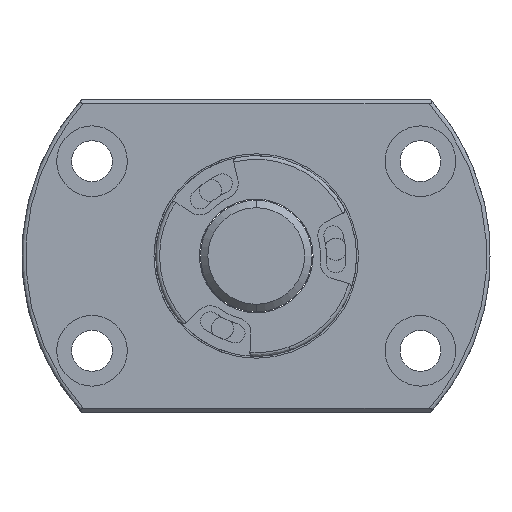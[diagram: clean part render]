
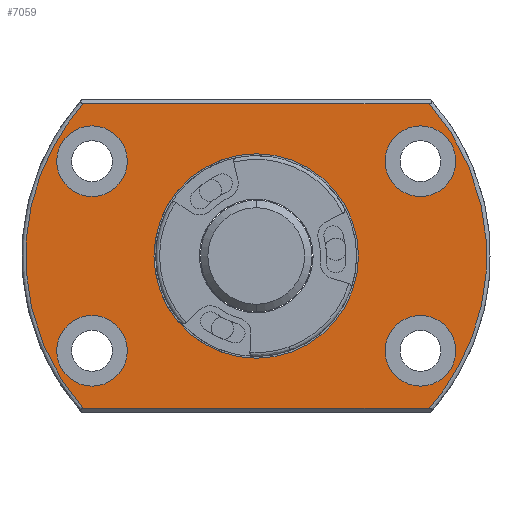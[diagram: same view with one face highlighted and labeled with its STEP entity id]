
A CAD part, left-side view. The second image highlights one B-rep face of the part: STEP entity #7059.
In plain terms, the highlighted planar face has unit normal (-1, 0, 0).
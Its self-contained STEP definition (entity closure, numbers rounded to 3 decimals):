
#12 = DIRECTION ( 'NONE',  ( 1., 0., 0. ) ) ;
#22 = CIRCLE ( 'NONE', #3540, 4.75 ) ;
#62 = EDGE_CURVE ( 'NONE', #1928, #6558, #6713, .T. ) ;
#75 = EDGE_CURVE ( 'NONE', #6183, #1837, #211, .T. ) ;
#111 = DIRECTION ( 'NONE',  ( 0., 0., 1. ) ) ;
#166 = CARTESIAN_POINT ( 'NONE',  ( 0., 34.098, -8.199 ) ) ;
#211 = CIRCLE ( 'NONE', #1800, 4.75 ) ;
#406 = AXIS2_PLACEMENT_3D ( 'NONE', #6171, #6253, #3653 ) ;
#611 = CARTESIAN_POINT ( 'NONE',  ( 0., 22.084, 17.5 ) ) ;
#753 = ORIENTED_EDGE ( 'NONE', *, *, #7382, .T. ) ;
#754 = ORIENTED_EDGE ( 'NONE', *, *, #3317, .T. ) ;
#786 = DIRECTION ( 'NONE',  ( 1., 0., 0. ) ) ;
#788 = VERTEX_POINT ( 'NONE', #4475 ) ;
#866 = DIRECTION ( 'NONE',  ( 0., 0., 1. ) ) ;
#872 = EDGE_CURVE ( 'NONE', #6338, #1928, #3595, .T. ) ;
#1210 = CARTESIAN_POINT ( 'NONE',  ( 0., -34.098, -8.199 ) ) ;
#1286 = AXIS2_PLACEMENT_3D ( 'NONE', #6739, #1617, #4071 ) ;
#1325 = EDGE_CURVE ( 'NONE', #6839, #788, #4501, .T. ) ;
#1354 = CARTESIAN_POINT ( 'NONE',  ( 0., 23.254, 20.5 ) ) ;
#1406 = ORIENTED_EDGE ( 'NONE', *, *, #75, .T. ) ;
#1423 = CIRCLE ( 'NONE', #2676, 4.75 ) ;
#1426 = ORIENTED_EDGE ( 'NONE', *, *, #1325, .T. ) ;
#1427 = DIRECTION ( 'NONE',  ( 0., -1., 0. ) ) ;
#1505 = FACE_BOUND ( 'NONE', #7487, .T. ) ;
#1524 = VERTEX_POINT ( 'NONE', #1354 ) ;
#1545 = CARTESIAN_POINT ( 'NONE',  ( 0., 0., 0. ) ) ;
#1617 = DIRECTION ( 'NONE',  ( 1., 0., 0. ) ) ;
#1653 = CIRCLE ( 'NONE', #7498, 4.75 ) ;
#1738 = CIRCLE ( 'NONE', #2942, 13.75 ) ;
#1800 = AXIS2_PLACEMENT_3D ( 'NONE', #6597, #786, #866 ) ;
#1837 = VERTEX_POINT ( 'NONE', #3015 ) ;
#1889 = CARTESIAN_POINT ( 'NONE',  ( 0., -23.254, 20.5 ) ) ;
#1907 = CARTESIAN_POINT ( 'NONE',  ( 0., 0., -20.5 ) ) ;
#1928 = VERTEX_POINT ( 'NONE', #3576 ) ;
#1996 = DIRECTION ( 'NONE',  ( 1., 0., 0. ) ) ;
#2094 = AXIS2_PLACEMENT_3D ( 'NONE', #4679, #4759, #2743 ) ;
#2108 = CARTESIAN_POINT ( 'NONE',  ( 0., 34.098, 8.199 ) ) ;
#2206 = ORIENTED_EDGE ( 'NONE', *, *, #6900, .T. ) ;
#2233 = CARTESIAN_POINT ( 'NONE',  ( 0., -22.084, 12.75 ) ) ;
#2264 = AXIS2_PLACEMENT_3D ( 'NONE', #3140, #12, #4455 ) ;
#2487 = EDGE_CURVE ( 'NONE', #1524, #6338, #7351, .T. ) ;
#2503 = CARTESIAN_POINT ( 'NONE',  ( 0., 0., 0. ) ) ;
#2534 = FACE_OUTER_BOUND ( 'NONE', #7461, .T. ) ;
#2648 = CARTESIAN_POINT ( 'NONE',  ( 0., -23.254, 20.5 ) ) ;
#2652 = EDGE_CURVE ( 'NONE', #5238, #6481, #5672, .T. ) ;
#2676 = AXIS2_PLACEMENT_3D ( 'NONE', #6995, #6354, #7575 ) ;
#2743 = DIRECTION ( 'NONE',  ( 0., 0., 1. ) ) ;
#2792 = CARTESIAN_POINT ( 'NONE',  ( 0., 0., 20.5 ) ) ;
#2806 = DIRECTION ( 'NONE',  ( 0., 0., -1. ) ) ;
#2858 = DIRECTION ( 'NONE',  ( 1., 0., 0. ) ) ;
#2942 = AXIS2_PLACEMENT_3D ( 'NONE', #2503, #5706, #111 ) ;
#3015 = CARTESIAN_POINT ( 'NONE',  ( 0., -22.084, 17.5 ) ) ;
#3075 = ORIENTED_EDGE ( 'NONE', *, *, #2487, .F. ) ;
#3110 = CARTESIAN_POINT ( 'NONE',  ( 0., 0., -13.75 ) ) ;
#3140 = CARTESIAN_POINT ( 'NONE',  ( 0., 22.084, -12.75 ) ) ;
#3188 = EDGE_CURVE ( 'NONE', #1837, #6183, #1653, .T. ) ;
#3292 = DIRECTION ( 'NONE',  ( 0., 0., 1. ) ) ;
#3317 = EDGE_CURVE ( 'NONE', #4056, #5674, #4271, .T. ) ;
#3438 =( BOUNDED_CURVE ( )  B_SPLINE_CURVE ( 3, ( #5927, #166, #2108, #5374 ),
 .UNSPECIFIED., .F., .T. ) 
 B_SPLINE_CURVE_WITH_KNOTS ( ( 4, 4 ),
 ( 0., 1. ),
 .UNSPECIFIED. ) 
 CURVE ( )  GEOMETRIC_REPRESENTATION_ITEM ( )  RATIONAL_B_SPLINE_CURVE ( ( 1., 0.833, 0.833, 1. ) ) 
 REPRESENTATION_ITEM ( '' )  );
#3540 = AXIS2_PLACEMENT_3D ( 'NONE', #7781, #7140, #4055 ) ;
#3563 = CARTESIAN_POINT ( 'NONE',  ( 0., -22.084, -8. ) ) ;
#3571 = VERTEX_POINT ( 'NONE', #3642 ) ;
#3576 = CARTESIAN_POINT ( 'NONE',  ( 0., -23.254, -20.5 ) ) ;
#3595 =( BOUNDED_CURVE ( )  B_SPLINE_CURVE ( 3, ( #1889, #5138, #1210, #6993 ),
 .UNSPECIFIED., .F., .T. ) 
 B_SPLINE_CURVE_WITH_KNOTS ( ( 4, 4 ),
 ( 0., 1. ),
 .UNSPECIFIED. ) 
 CURVE ( )  GEOMETRIC_REPRESENTATION_ITEM ( )  RATIONAL_B_SPLINE_CURVE ( ( 1., 0.833, 0.833, 1. ) ) 
 REPRESENTATION_ITEM ( '' )  );
#3641 = FACE_BOUND ( 'NONE', #5895, .T. ) ;
#3642 = CARTESIAN_POINT ( 'NONE',  ( 0., 0., 13.75 ) ) ;
#3653 = DIRECTION ( 'NONE',  ( 0., 0., 1. ) ) ;
#3781 = ORIENTED_EDGE ( 'NONE', *, *, #4494, .F. ) ;
#3834 = FACE_BOUND ( 'NONE', #4167, .T. ) ;
#4055 = DIRECTION ( 'NONE',  ( 0., 0., 1. ) ) ;
#4056 = VERTEX_POINT ( 'NONE', #6179 ) ;
#4071 = DIRECTION ( 'NONE',  ( 0., 0., 1. ) ) ;
#4104 = EDGE_CURVE ( 'NONE', #7180, #3571, #1738, .T. ) ;
#4158 = CARTESIAN_POINT ( 'NONE',  ( 0., 22.084, -8. ) ) ;
#4167 = EDGE_LOOP ( 'NONE', ( #5989, #2206 ) ) ;
#4203 = EDGE_CURVE ( 'NONE', #6558, #1524, #3438, .T. ) ;
#4271 = CIRCLE ( 'NONE', #2264, 4.75 ) ;
#4323 = VECTOR ( 'NONE', #5130, 1000. ) ;
#4455 = DIRECTION ( 'NONE',  ( 0., 0., 1. ) ) ;
#4475 = CARTESIAN_POINT ( 'NONE',  ( 0., 22.084, 8. ) ) ;
#4494 = EDGE_CURVE ( 'NONE', #3571, #7180, #5056, .T. ) ;
#4501 = CIRCLE ( 'NONE', #5677, 4.75 ) ;
#4584 = CARTESIAN_POINT ( 'NONE',  ( 0., 23.254, -20.5 ) ) ;
#4679 = CARTESIAN_POINT ( 'NONE',  ( 0., 22.084, -12.75 ) ) ;
#4759 = DIRECTION ( 'NONE',  ( 1., 0., 0. ) ) ;
#4776 = DIRECTION ( 'NONE',  ( 0., 0., 1. ) ) ;
#4802 = DIRECTION ( 'NONE',  ( 1., 0., 0. ) ) ;
#4994 = AXIS2_PLACEMENT_3D ( 'NONE', #1545, #2858, #2806 ) ;
#5056 = CIRCLE ( 'NONE', #406, 13.75 ) ;
#5130 = DIRECTION ( 'NONE',  ( 0., 1., 0. ) ) ;
#5138 = CARTESIAN_POINT ( 'NONE',  ( 0., -34.098, 8.199 ) ) ;
#5215 = CARTESIAN_POINT ( 'NONE',  ( 0., 22.084, 12.75 ) ) ;
#5238 = VERTEX_POINT ( 'NONE', #3563 ) ;
#5265 = ORIENTED_EDGE ( 'NONE', *, *, #872, .F. ) ;
#5374 = CARTESIAN_POINT ( 'NONE',  ( 0., 23.254, 20.5 ) ) ;
#5400 = EDGE_LOOP ( 'NONE', ( #5598, #1406 ) ) ;
#5549 = ORIENTED_EDGE ( 'NONE', *, *, #5906, .T. ) ;
#5598 = ORIENTED_EDGE ( 'NONE', *, *, #3188, .T. ) ;
#5672 = CIRCLE ( 'NONE', #1286, 4.75 ) ;
#5674 = VERTEX_POINT ( 'NONE', #4158 ) ;
#5677 = AXIS2_PLACEMENT_3D ( 'NONE', #5215, #1996, #3292 ) ;
#5706 = DIRECTION ( 'NONE',  ( -1., 0., 0. ) ) ;
#5854 = ORIENTED_EDGE ( 'NONE', *, *, #4203, .F. ) ;
#5895 = EDGE_LOOP ( 'NONE', ( #3781, #7578 ) ) ;
#5903 = CARTESIAN_POINT ( 'NONE',  ( 0., -22.084, -17.5 ) ) ;
#5906 = EDGE_CURVE ( 'NONE', #788, #6839, #1423, .T. ) ;
#5927 = CARTESIAN_POINT ( 'NONE',  ( 0., 23.254, -20.5 ) ) ;
#5989 = ORIENTED_EDGE ( 'NONE', *, *, #2652, .T. ) ;
#6113 = PLANE ( 'NONE',  #4994 ) ;
#6148 = ORIENTED_EDGE ( 'NONE', *, *, #62, .F. ) ;
#6171 = CARTESIAN_POINT ( 'NONE',  ( 0., 0., 0. ) ) ;
#6179 = CARTESIAN_POINT ( 'NONE',  ( 0., 22.084, -17.5 ) ) ;
#6183 = VERTEX_POINT ( 'NONE', #6324 ) ;
#6253 = DIRECTION ( 'NONE',  ( -1., 0., 0. ) ) ;
#6324 = CARTESIAN_POINT ( 'NONE',  ( 0., -22.084, 8. ) ) ;
#6338 = VERTEX_POINT ( 'NONE', #2648 ) ;
#6354 = DIRECTION ( 'NONE',  ( 1., 0., 0. ) ) ;
#6481 = VERTEX_POINT ( 'NONE', #5903 ) ;
#6558 = VERTEX_POINT ( 'NONE', #4584 ) ;
#6597 = CARTESIAN_POINT ( 'NONE',  ( 0., -22.084, 12.75 ) ) ;
#6713 = LINE ( 'NONE', #1907, #4323 ) ;
#6739 = CARTESIAN_POINT ( 'NONE',  ( 0., -22.084, -12.75 ) ) ;
#6839 = VERTEX_POINT ( 'NONE', #611 ) ;
#6900 = EDGE_CURVE ( 'NONE', #6481, #5238, #22, .T. ) ;
#6993 = CARTESIAN_POINT ( 'NONE',  ( 0., -23.254, -20.5 ) ) ;
#6995 = CARTESIAN_POINT ( 'NONE',  ( 0., 22.084, 12.75 ) ) ;
#7025 = FACE_BOUND ( 'NONE', #7277, .T. ) ;
#7059 = ADVANCED_FACE ( 'NONE', ( #2534, #7025, #1505, #7505, #3834, #3641 ), #6113, .F. ) ;
#7140 = DIRECTION ( 'NONE',  ( 1., 0., 0. ) ) ;
#7180 = VERTEX_POINT ( 'NONE', #3110 ) ;
#7277 = EDGE_LOOP ( 'NONE', ( #753, #754 ) ) ;
#7351 = LINE ( 'NONE', #2792, #8044 ) ;
#7382 = EDGE_CURVE ( 'NONE', #5674, #4056, #7712, .T. ) ;
#7461 = EDGE_LOOP ( 'NONE', ( #3075, #5854, #6148, #5265 ) ) ;
#7487 = EDGE_LOOP ( 'NONE', ( #1426, #5549 ) ) ;
#7498 = AXIS2_PLACEMENT_3D ( 'NONE', #2233, #4802, #4776 ) ;
#7505 = FACE_BOUND ( 'NONE', #5400, .T. ) ;
#7575 = DIRECTION ( 'NONE',  ( 0., 0., 1. ) ) ;
#7578 = ORIENTED_EDGE ( 'NONE', *, *, #4104, .F. ) ;
#7712 = CIRCLE ( 'NONE', #2094, 4.75 ) ;
#7781 = CARTESIAN_POINT ( 'NONE',  ( 0., -22.084, -12.75 ) ) ;
#8044 = VECTOR ( 'NONE', #1427, 1000. ) ;
